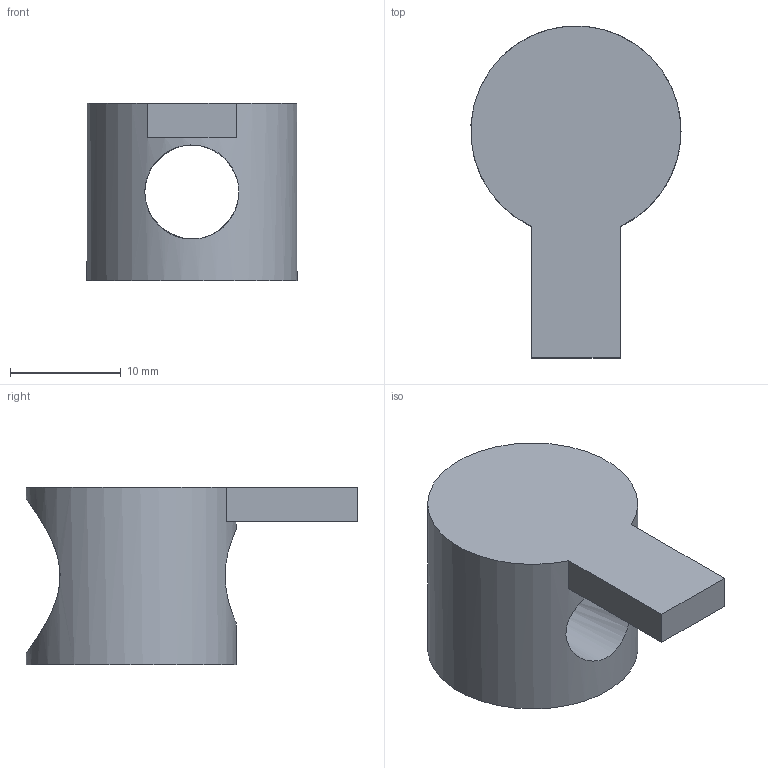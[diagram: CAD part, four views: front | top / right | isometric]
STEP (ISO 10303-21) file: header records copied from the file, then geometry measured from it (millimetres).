
FILE_DESCRIPTION((''),'2;1');
FILE_NAME('E:\catalogue and flyer\Profile catalogue 2015\Accessories JE info\Accessories-JE step file 31MAr16\JE-UJT20-8.stp','2016-04-07T11:44:18',('h029'),(''),'Autodesk Inventor 11','Autodesk Inventor 11','');
FILE_SCHEMA(('AUTOMOTIVE_DESIGN { 1 0 10303 214 1 1 1 1 }'));
Length unit declared in the file: millimetre
Products named in the file (1): JE-UJT20-8
Bounding box: 18.98 x 30 x 16 mm (x, y, z)
Volume: 2884.1 mm3; surface area: 2242.2 mm2
Topology: 1 solids, 1 shells, 11 faces, 28 edges, 19 vertices
Faces by surface type: plane 6, bspline 3, cone 1, cylinder 1
Full cylindrical faces by diameter (mm): 19 x1
Entity records: 472 total; most frequent: CARTESIAN_POINT 233, DIRECTION 40, ORIENTED_EDGE 38, EDGE_CURVE 19, EDGE_LOOP 18, AXIS2_PLACEMENT_3D 15, VERTEX_POINT 15, FACE_OUTER_BOUND 11
